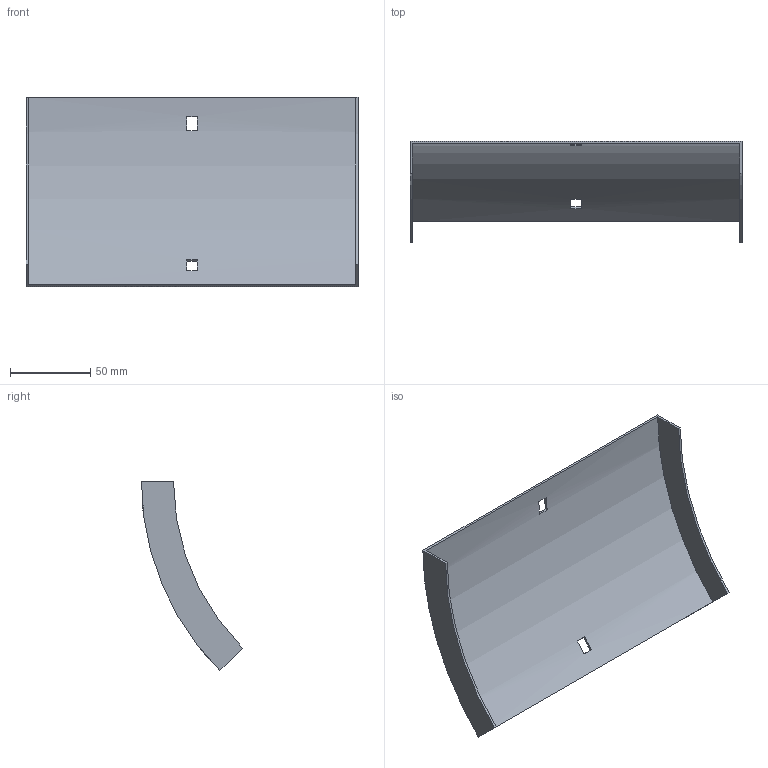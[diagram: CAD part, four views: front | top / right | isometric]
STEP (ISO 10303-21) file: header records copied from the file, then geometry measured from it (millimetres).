
FILE_DESCRIPTION (( 'STEP AP214' ), '1' );
FILE_NAME ('34N1H200.step', '2025-02-21T09:15:28', ( '' ), ( '' ), 'SwSTEP 2.0', 'SolidWorks 2023', '' );
FILE_SCHEMA (( 'AUTOMOTIVE_DESIGN' ));
Length unit declared in the file: millimetre
Products named in the file (1): 34N1H200
Bounding box: 207 x 63.06 x 118.09 mm (x, y, z)
Volume: 47177.2 mm3; surface area: 64076.6 mm2
Topology: 1 solids, 1 shells, 18 faces, 48 edges, 32 vertices
Faces by surface type: plane 14, cylinder 4
Entity records: 599 total; most frequent: DIRECTION 102, CARTESIAN_POINT 99, ORIENTED_EDGE 96, EDGE_CURVE 48, AXIS2_PLACEMENT_3D 35, VERTEX_POINT 32, VECTOR 32, LINE 32
